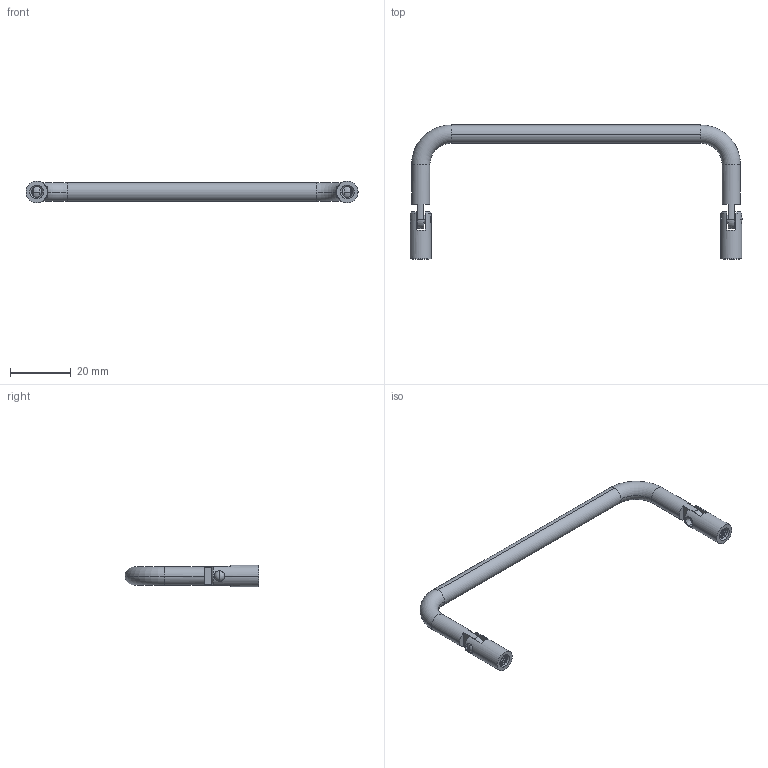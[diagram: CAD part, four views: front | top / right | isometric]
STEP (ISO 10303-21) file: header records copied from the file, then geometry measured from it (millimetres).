
FILE_DESCRIPTION (( 'STEP AP203' ), '1' );
FILE_NAME ('XG01-001-102.STEP', '2023-12-23T01:34:04', ( '' ), ( '' ), 'SwSTEP 2.0', 'SolidWorks 2020', '' );
FILE_SCHEMA (( 'CONFIG_CONTROL_DESIGN' ));
Length unit declared in the file: millimetre
Products named in the file (1): XG01-001-102
Bounding box: 109.02 x 44 x 7 mm (x, y, z)
Volume: 4813.7 mm3; surface area: 4315.8 mm2
Topology: 5 solids, 5 shells, 156 faces, 416 edges, 262 vertices
Faces by surface type: cylinder 86, plane 36, cone 16, torus 8, bspline 6, sphere 4
Entity records: 7817 total; most frequent: CARTESIAN_POINT 4171, ORIENTED_EDGE 816, DIRECTION 710, EDGE_CURVE 408, AXIS2_PLACEMENT_3D 285, VERTEX_POINT 258, EDGE_LOOP 168, ADVANCED_FACE 156
